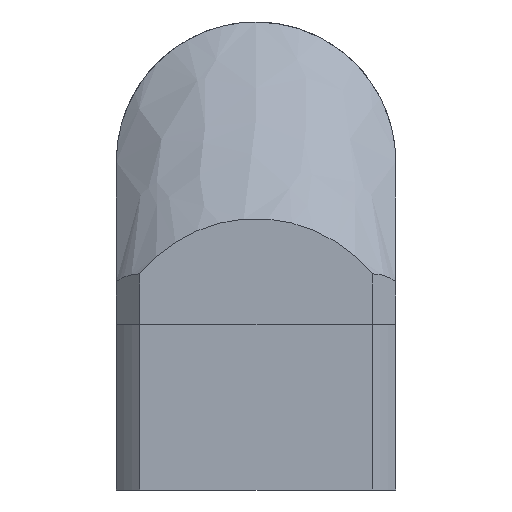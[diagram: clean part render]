
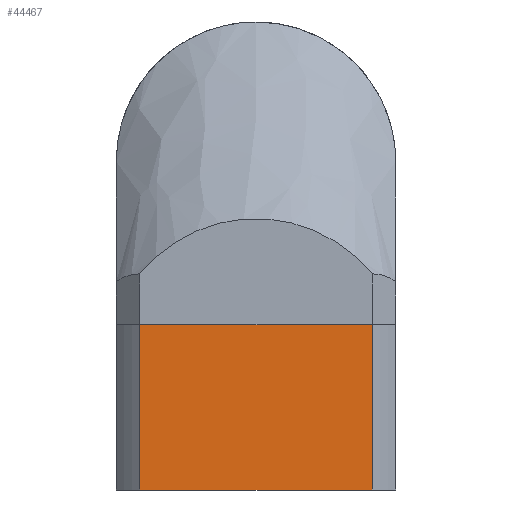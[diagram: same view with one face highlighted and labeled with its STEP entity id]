
A CAD part, front view. The second image highlights one B-rep face of the part: STEP entity #44467.
In plain terms, the highlighted planar face has unit normal (0, -1, 0).
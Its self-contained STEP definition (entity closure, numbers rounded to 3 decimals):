
#260 = CARTESIAN_POINT ( 'NONE',  ( -24.92, -30., 0. ) ) ;
#1350 = ORIENTED_EDGE ( 'NONE', *, *, #30158, .T. ) ;
#2168 = EDGE_CURVE ( 'NONE', #50863, #43424, #48648, .T. ) ;
#6314 = EDGE_CURVE ( 'NONE', #26394, #43424, #9152, .T. ) ;
#6600 = DIRECTION ( 'NONE',  ( 0., 0., -1. ) ) ;
#7825 = LINE ( 'NONE', #51262, #50833 ) ;
#7889 = VECTOR ( 'NONE', #16052, 1000. ) ;
#7921 = CARTESIAN_POINT ( 'NONE',  ( 0., -30., 0. ) ) ;
#9152 = LINE ( 'NONE', #18562, #50884 ) ;
#12116 = EDGE_CURVE ( 'NONE', #50863, #15776, #48353, .T. ) ;
#15776 = VERTEX_POINT ( 'NONE', #260 ) ;
#16052 = DIRECTION ( 'NONE',  ( -1., 0., 0. ) ) ;
#18562 = CARTESIAN_POINT ( 'NONE',  ( 0., -30., -35.5 ) ) ;
#21087 = ORIENTED_EDGE ( 'NONE', *, *, #12116, .T. ) ;
#26377 = EDGE_LOOP ( 'NONE', ( #1350, #32027, #41576, #21087 ) ) ;
#26394 = VERTEX_POINT ( 'NONE', #48280 ) ;
#27242 = FACE_OUTER_BOUND ( 'NONE', #26377, .T. ) ;
#28377 = DIRECTION ( 'NONE',  ( 0., 0., -1. ) ) ;
#30158 = EDGE_CURVE ( 'NONE', #15776, #26394, #7825, .T. ) ;
#30662 = PLANE ( 'NONE',  #45889 ) ;
#30828 = DIRECTION ( 'NONE',  ( 0., -1., 0. ) ) ;
#30931 = DIRECTION ( 'NONE',  ( 1., 0., 0. ) ) ;
#32027 = ORIENTED_EDGE ( 'NONE', *, *, #6314, .T. ) ;
#34723 = CARTESIAN_POINT ( 'NONE',  ( -30., -30., -35.5 ) ) ;
#35030 = DIRECTION ( 'NONE',  ( 0., 0., -1. ) ) ;
#35749 = CARTESIAN_POINT ( 'NONE',  ( 24.92, -30., 0. ) ) ;
#37941 = VECTOR ( 'NONE', #28377, 1000. ) ;
#40166 = CARTESIAN_POINT ( 'NONE',  ( 24.92, -30., -35.5 ) ) ;
#41576 = ORIENTED_EDGE ( 'NONE', *, *, #2168, .F. ) ;
#43424 = VERTEX_POINT ( 'NONE', #40166 ) ;
#44467 = ADVANCED_FACE ( 'NONE', ( #27242 ), #30662, .T. ) ;
#45889 = AXIS2_PLACEMENT_3D ( 'NONE', #34723, #30828, #6600 ) ;
#48280 = CARTESIAN_POINT ( 'NONE',  ( -24.92, -30., -35.5 ) ) ;
#48353 = LINE ( 'NONE', #7921, #7889 ) ;
#48648 = LINE ( 'NONE', #51489, #37941 ) ;
#50833 = VECTOR ( 'NONE', #35030, 1000. ) ;
#50863 = VERTEX_POINT ( 'NONE', #35749 ) ;
#50884 = VECTOR ( 'NONE', #30931, 1000. ) ;
#51262 = CARTESIAN_POINT ( 'NONE',  ( -24.92, -30., -35.5 ) ) ;
#51489 = CARTESIAN_POINT ( 'NONE',  ( 24.92, -30., 0. ) ) ;
